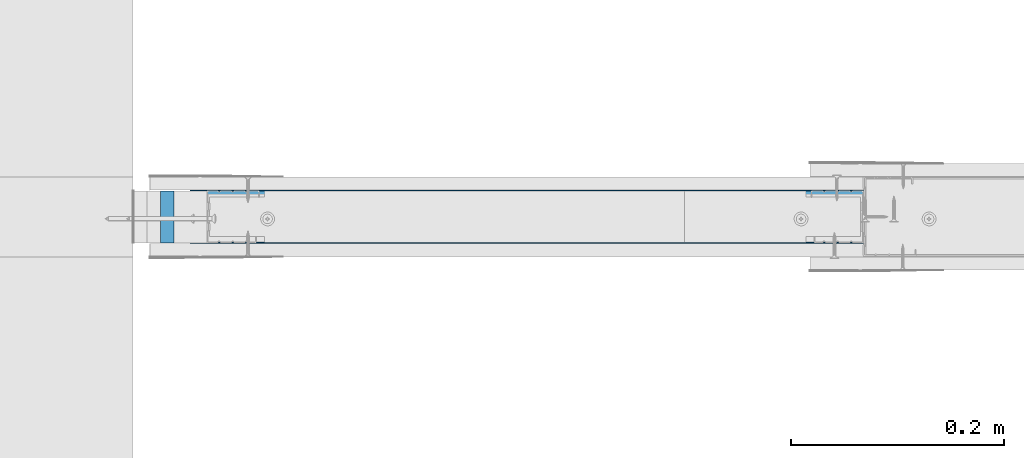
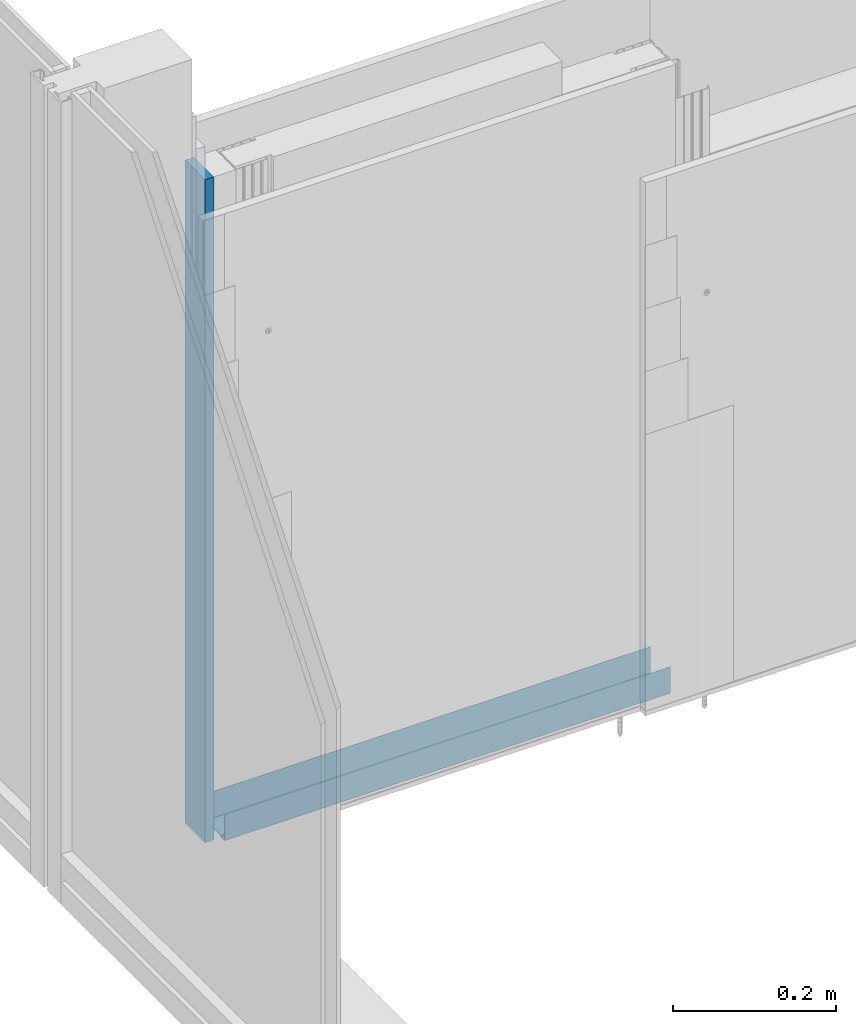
# One storey, part 3 of 42: 2 walls.
"""IFC2X3 building model written with IfcOpenShell, lengths in millimetres."""

from ifc_helpers import new_model, entity, si_unit, converted_unit, direction, frame, origin, origin_with_axes, place, context, project, spatial, faceted_brep, element, save


model = new_model("IFC2X3")

# Units and contexts
model_context = context("Model", 3, precision=1e-05, world=origin(), true_north=direction((0.0, 1.0, 0.0)))
ifc_project = project(units=[si_unit("LENGTHUNIT", "METRE", prefix="MILLI"), si_unit("AREAUNIT", "SQUARE_METRE"), si_unit("VOLUMEUNIT", "CUBIC_METRE"), converted_unit("PLANEANGLEUNIT", "DEGREE", entity("IfcPlaneAngleMeasure", 0.01745), si_unit("PLANEANGLEUNIT", "RADIAN"), dimensions=[0, 0, 0, 0, 0, 0, 0]), si_unit("SOLIDANGLEUNIT", "STERADIAN"), si_unit("MASSUNIT", "GRAM"), si_unit("TIMEUNIT", "SECOND"), si_unit("THERMODYNAMICTEMPERATUREUNIT", "DEGREE_CELSIUS"), si_unit("LUMINOUSINTENSITYUNIT", "LUMEN")], contexts=[model_context])

# Site, building, storey
site_placement = place(None, origin_with_axes())
site = spatial("IfcSite", under=ifc_project, at=site_placement, Name="Default Site", CompositionType="ELEMENT")
building_placement = place(site_placement, origin_with_axes())
building = spatial("IfcBuilding", under=site, at=building_placement, Name="Default Building", CompositionType="ELEMENT")
storey_placement = place(building_placement, origin_with_axes())
storey = spatial("IfcBuildingStorey", under=building, at=storey_placement, Name="Default Building Storey", CompositionType="ELEMENT", Elevation=0.0)

# Walls
wall_1_placement = place(storey_placement, frame((2347.814282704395, 2016.879979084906, -185.4597315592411), z_axis=(-1.0, 5.82867087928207e-16, -8.068721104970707e-16), x_axis=(9.776777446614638e-16, -3.256321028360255e-31, -1.0)))
element("IfcWall", 1, at=wall_1_placement, inside=storey, Name="Płyta gipsowo-kartonowa RIGIPS PRO (4PRO™)", context=model_context, shape_type="Brep", body=[
    faceted_brep([(-195.4581498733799, -24.6461696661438, -1.129080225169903), (-195.45814987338, 24.14398100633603, -1.129080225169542), (-1187.843757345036, 24.14398100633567, -1.129080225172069), (-1187.843757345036, -24.64616966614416, -1.129080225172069), (-195.45814987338, 24.14398100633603, 11.37091977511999), (-1187.843757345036, 24.14398100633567, 11.37091977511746), (-195.45814987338, -24.6461696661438, 11.37091977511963), (-1187.843757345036, -24.64616966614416, 11.37091977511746)], [[[0, 1, 2, 3]], [[1, 4, 5, 2]], [[4, 6, 7, 5]], [[6, 0, 3, 7]], [[7, 3, 2, 5]], [[0, 6, 4, 1]]]),
])
wall_2_placement = place(storey_placement, frame((2887.818896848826, -1438.076434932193, 8.248997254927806), z_axis=(7.548498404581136e-14, 6.858158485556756e-13, 1.0), x_axis=(1.0, -1.253556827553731e-15, -7.692534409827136e-14)))
element("IfcWall", 2, at=wall_2_placement, inside=storey, Name="Profil RIGIPS UW 50 ULTRASTIL®", context=model_context, shape_type="Brep", body=[
    faceted_brep([(-523.6648519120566, 3479.733223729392, 35.00000000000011), (-523.6648519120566, 3480.283223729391, 35.00000000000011), (-523.6648519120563, 3480.283223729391, -4.19999999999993), (-523.6648519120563, 3480.273374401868, -4.32514757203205), (-523.6648519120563, 3480.244068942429, -4.447213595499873), (-523.6648519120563, 3480.196028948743, -4.563192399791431), (-523.6648519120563, 3480.130437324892, -4.670228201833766), (-523.6648519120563, 3480.04890915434, -4.765685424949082), (-523.6648519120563, 3479.953451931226, -4.84721359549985), (-523.6648519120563, 3479.846416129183, -4.912805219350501), (-523.6648519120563, 3479.730437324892, -4.960845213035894), (-523.6648519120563, 3479.608371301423, -4.990150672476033), (-523.6648519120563, 3479.483223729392, -4.999999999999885), (-523.6648519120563, 3470.908620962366, -4.999999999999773), (-523.6648519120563, 3470.686924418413, -4.975115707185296), (-523.6648519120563, 3470.476261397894, -4.901701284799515), (-523.6648519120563, 3470.128902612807, -4.626130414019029), (-523.6648519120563, 3470.009494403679, -4.437688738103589), (-523.6648519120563, 3469.68072520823, -3.762311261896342), (-523.6648519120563, 3469.561316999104, -3.573869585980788), (-523.6648519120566, 3469.403103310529, -3.416589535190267), (-523.6648519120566, 3469.213958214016, -3.298298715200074), (-523.6648519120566, 3469.003295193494, -3.224884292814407), (-523.6648519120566, 3468.781598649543, -3.19999999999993), (-523.6648519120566, 3441.78484880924, -3.199999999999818), (-523.6648519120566, 3441.563152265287, -3.224884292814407), (-523.6648519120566, 3441.352489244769, -3.298298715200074), (-523.6648519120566, 3441.163344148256, -3.416589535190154), (-523.6648519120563, 3441.005130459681, -3.573869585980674), (-523.6648519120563, 3440.885722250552, -3.762311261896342), (-523.6648519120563, 3440.556953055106, -4.437688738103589), (-523.6648519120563, 3440.437544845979, -4.626130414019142), (-523.6648519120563, 3440.279331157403, -4.783410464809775), (-523.6648519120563, 3439.87952304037, -4.97511570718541), (-523.6648519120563, 3439.657826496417, -4.999999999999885), (-523.6648519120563, 3431.083223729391, -4.999999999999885), (-523.6648519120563, 3430.95807615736, -4.990150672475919), (-523.6648519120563, 3430.836010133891, -4.960845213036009), (-523.6648519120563, 3430.7200313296, -4.912805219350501), (-523.6648519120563, 3430.612995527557, -4.847213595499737), (-523.6648519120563, 3430.517538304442, -4.765685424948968), (-523.6648519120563, 3430.436010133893, -4.670228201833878), (-523.6648519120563, 3430.370418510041, -4.563192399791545), (-523.6648519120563, 3430.322378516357, -4.447213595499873), (-523.6648519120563, 3430.293073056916, -4.32514757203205), (-523.6648519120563, 3430.283223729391, -4.19999999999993), (-523.6648519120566, 3430.283223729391, 35.00000000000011), (-523.6648519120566, 3430.833223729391, 35.00000000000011), (-523.6648519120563, 3430.833223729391, -4.19999999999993), (-523.6648519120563, 3430.836301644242, -4.239108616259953), (-523.6648519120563, 3430.845459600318, -4.277254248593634), (-523.6648519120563, 3430.860472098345, -4.313497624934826), (-523.6648519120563, 3430.880969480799, -4.34694631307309), (-523.6648519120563, 3430.906447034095, -4.376776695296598), (-523.6648519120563, 3430.93627741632, -4.402254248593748), (-523.6648519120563, 3430.969726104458, -4.422751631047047), (-523.6648519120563, 3431.005969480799, -4.437764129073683), (-523.6648519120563, 3431.044115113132, -4.446922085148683), (-523.6648519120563, 3431.083223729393, -4.44999999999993), (-523.6648519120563, 3439.313858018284, -4.450000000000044), (-523.6648519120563, 3439.535554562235, -4.425115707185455), (-523.6648519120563, 3439.746217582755, -4.351701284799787), (-523.6648519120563, 3439.935362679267, -4.233410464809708), (-523.6648519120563, 3440.093576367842, -4.076130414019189), (-523.6648519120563, 3440.21298457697, -3.88768873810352), (-523.6648519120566, 3440.541753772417, -3.212311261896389), (-523.6648519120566, 3440.661161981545, -3.023869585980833), (-523.6648519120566, 3440.819375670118, -2.866589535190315), (-523.6648519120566, 3441.219183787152, -2.674884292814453), (-523.6648519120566, 3441.440880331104, -2.649999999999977), (-523.6648519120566, 3469.125567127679, -2.649999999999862), (-523.6648519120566, 3469.347263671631, -2.674884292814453), (-523.6648519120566, 3469.557926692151, -2.748298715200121), (-523.6648519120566, 3469.905285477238, -3.023869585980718), (-523.6648519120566, 3470.024693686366, -3.212311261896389), (-523.6648519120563, 3470.353462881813, -3.88768873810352), (-523.6648519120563, 3470.472871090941, -4.076130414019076), (-523.6648519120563, 3470.631084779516, -4.233410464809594), (-523.6648519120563, 3470.82022987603, -4.351701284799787), (-523.6648519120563, 3471.030892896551, -4.425115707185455), (-523.6648519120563, 3471.252589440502, -4.44999999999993), (-523.6648519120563, 3479.483223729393, -4.449999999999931), (-523.6648519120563, 3479.522332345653, -4.446922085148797), (-523.6648519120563, 3479.560477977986, -4.437764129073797), (-523.6648519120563, 3479.596721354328, -4.422751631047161), (-523.6648519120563, 3479.630170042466, -4.402254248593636), (-523.6648519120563, 3479.660000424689, -4.376776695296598), (-523.6648519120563, 3479.685477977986, -4.34694631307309), (-523.6648519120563, 3479.705975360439, -4.313497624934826), (-523.6648519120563, 3479.720987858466, -4.277254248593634), (-523.6648519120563, 3479.730145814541, -4.239108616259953), (-523.6648519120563, 3479.733223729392, -4.19999999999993), (107.3602554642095, 3480.283223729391, -4.200000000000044), (107.3602554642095, 3480.283223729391, 35.0), (107.3602554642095, 3479.733223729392, 35.0), (107.3602554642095, 3479.733223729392, -4.200000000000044), (107.3602554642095, 3479.730145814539, -4.239108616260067), (107.3602554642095, 3479.720987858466, -4.277254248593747), (107.3602554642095, 3479.705975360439, -4.313497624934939), (107.3602554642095, 3479.685477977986, -4.346946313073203), (107.3602554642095, 3479.660000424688, -4.376776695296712), (107.3602554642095, 3479.630170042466, -4.402254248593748), (107.3602554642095, 3479.596721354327, -4.422751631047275), (107.3602554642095, 3479.560477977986, -4.43776412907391), (107.3602554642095, 3479.522332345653, -4.446922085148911), (107.3602554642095, 3479.483223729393, -4.450000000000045), (107.3602554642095, 3471.252589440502, -4.450000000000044), (107.3602554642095, 3471.03089289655, -4.425115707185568), (107.3602554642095, 3470.820229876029, -4.351701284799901), (107.3602554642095, 3470.631084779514, -4.233410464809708), (107.3602554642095, 3470.472871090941, -4.076130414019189), (107.3602554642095, 3470.353462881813, -3.887688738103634), (107.3602554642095, 3470.024693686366, -3.212311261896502), (107.3602554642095, 3469.905285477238, -3.023869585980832), (107.3602554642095, 3469.557926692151, -2.748298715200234), (107.3602554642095, 3469.34726367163, -2.674884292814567), (107.3602554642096, 3469.125567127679, -2.649999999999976), (107.3602554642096, 3441.440880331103, -2.65000000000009), (107.3602554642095, 3441.219183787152, -2.674884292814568), (107.3602554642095, 3440.819375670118, -2.866589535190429), (107.3602554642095, 3440.661161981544, -3.023869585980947), (107.3602554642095, 3440.541753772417, -3.212311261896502), (107.3602554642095, 3440.212984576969, -3.887688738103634), (107.3602554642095, 3440.093576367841, -4.076130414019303), (107.3602554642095, 3439.935362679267, -4.233410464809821), (107.3602554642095, 3439.746217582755, -4.351701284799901), (107.3602554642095, 3439.535554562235, -4.425115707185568), (107.3602554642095, 3439.313858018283, -4.450000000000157), (107.3602554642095, 3431.083223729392, -4.450000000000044), (107.3602554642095, 3431.044115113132, -4.446922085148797), (107.3602554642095, 3431.005969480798, -4.437764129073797), (107.3602554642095, 3430.969726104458, -4.422751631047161), (107.3602554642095, 3430.936277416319, -4.402254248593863), (107.3602554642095, 3430.906447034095, -4.376776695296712), (107.3602554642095, 3430.880969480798, -4.346946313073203), (107.3602554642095, 3430.860472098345, -4.313497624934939), (107.3602554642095, 3430.845459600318, -4.277254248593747), (107.3602554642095, 3430.836301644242, -4.239108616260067), (107.3602554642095, 3430.833223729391, -4.200000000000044), (107.3602554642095, 3430.833223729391, 35.0), (107.3602554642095, 3430.283223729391, 35.0), (107.3602554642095, 3430.283223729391, -4.200000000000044), (107.3602554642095, 3430.293073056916, -4.325147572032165), (107.3602554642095, 3430.322378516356, -4.447213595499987), (107.3602554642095, 3430.370418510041, -4.563192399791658), (107.3602554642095, 3430.436010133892, -4.670228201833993), (107.3602554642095, 3430.517538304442, -4.765685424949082), (107.3602554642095, 3430.612995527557, -4.84721359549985), (107.3602554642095, 3430.7200313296, -4.912805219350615), (107.3602554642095, 3430.836010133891, -4.960845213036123), (107.3602554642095, 3430.958076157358, -4.990150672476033), (107.3602554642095, 3431.083223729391, -4.999999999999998), (107.3602554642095, 3439.657826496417, -4.999999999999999), (107.3602554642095, 3439.879523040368, -4.975115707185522), (107.3602554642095, 3440.279331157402, -4.783410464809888), (107.3602554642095, 3440.437544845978, -4.626130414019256), (107.3602554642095, 3440.556953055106, -4.437688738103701), (107.3602554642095, 3440.885722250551, -3.762311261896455), (107.3602554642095, 3441.005130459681, -3.573869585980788), (107.3602554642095, 3441.163344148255, -3.416589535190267), (107.3602554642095, 3441.352489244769, -3.298298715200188), (107.3602554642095, 3441.563152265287, -3.224884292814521), (107.3602554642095, 3441.78484880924, -3.199999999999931), (107.3602554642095, 3468.781598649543, -3.200000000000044), (107.3602554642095, 3469.003295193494, -3.224884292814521), (107.3602554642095, 3469.213958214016, -3.298298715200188), (107.3602554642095, 3469.403103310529, -3.416589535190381), (107.3602554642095, 3469.561316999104, -3.573869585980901), (107.3602554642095, 3469.680725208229, -3.762311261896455), (107.3602554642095, 3470.009494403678, -4.437688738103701), (107.3602554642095, 3470.128902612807, -4.626130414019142), (107.3602554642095, 3470.476261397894, -4.901701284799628), (107.3602554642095, 3470.686924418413, -4.97511570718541), (107.3602554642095, 3470.908620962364, -4.999999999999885), (107.3602554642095, 3479.483223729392, -4.999999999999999), (107.3602554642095, 3479.608371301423, -4.990150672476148), (107.3602554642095, 3479.73043732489, -4.960845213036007), (107.3602554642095, 3479.846416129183, -4.912805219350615), (107.3602554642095, 3479.953451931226, -4.847213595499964), (107.3602554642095, 3480.04890915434, -4.765685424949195), (107.3602554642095, 3480.130437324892, -4.670228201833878), (107.3602554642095, 3480.196028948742, -4.563192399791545), (107.3602554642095, 3480.244068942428, -4.447213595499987), (107.3602554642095, 3480.273374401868, -4.325147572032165), (-523.6648519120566, 3441.008520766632, -2.748298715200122), (107.3602554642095, 3441.008520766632, -2.748298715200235), (-523.6648519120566, 3469.747071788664, -2.8665895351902), (107.3602554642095, 3469.747071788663, -2.866589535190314), (-523.6648519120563, 3470.063927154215, -4.535249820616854), (107.3602554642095, 3470.063927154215, -4.535249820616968), (-523.6648519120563, 3470.287116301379, -4.783410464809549), (107.3602554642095, 3470.287116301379, -4.783410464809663), (-523.6648519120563, 3440.09018606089, -4.901701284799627), (107.3602554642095, 3440.09018606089, -4.90170128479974)], [[[0, 1, 2, 3, 4, 5, 6, 7, 8, 9, 10, 11, 12, 13, 14, 15, 16, 17, 18, 19, 20, 21, 22, 23, 24, 25, 26, 27, 28, 29, 30, 31, 32, 33, 34, 35, 36, 37, 38, 39, 40, 41, 42, 43, 44, 45, 46, 47, 48, 49, 50, 51, 52, 53, 54, 55, 56, 57, 58, 59, 60, 61, 62, 63, 64, 65, 66, 67, 68, 69, 70, 71, 72, 73, 74, 75, 76, 77, 78, 79, 80, 81, 82, 83, 84, 85, 86, 87, 88, 89, 90, 91]], [[92, 93, 94, 95, 96, 97, 98, 99, 100, 101, 102, 103, 104, 105, 106, 107, 108, 109, 110, 111, 112, 113, 114, 115, 116, 117, 118, 119, 120, 121, 122, 123, 124, 125, 126, 127, 128, 129, 130, 131, 132, 133, 134, 135, 136, 137, 138, 139, 140, 141, 142, 143, 144, 145, 146, 147, 148, 149, 150, 151, 152, 153, 154, 155, 156, 157, 158, 159, 160, 161, 162, 163, 164, 165, 166, 167, 168, 169, 170, 171, 172, 173, 174, 175, 176, 177, 178, 179, 180, 181, 182, 183]], [[45, 141, 140, 46]], [[46, 140, 139, 47]], [[47, 139, 138, 48]], [[128, 58, 57, 129]], [[56, 130, 129, 57]], [[55, 131, 130, 56]], [[131, 55, 54, 132]], [[53, 133, 132, 54]], [[133, 53, 52, 134]], [[51, 135, 134, 52]], [[50, 136, 135, 51]], [[136, 50, 49, 137]], [[48, 138, 137, 49]], [[58, 128, 127, 59]], [[63, 123, 122, 64]], [[62, 124, 123, 63]], [[61, 125, 124, 62]], [[127, 126, 60, 59]], [[60, 126, 125, 61]], [[64, 122, 121, 65]], [[68, 118, 117, 69]], [[184, 185, 118, 68]], [[67, 119, 185, 184]], [[66, 120, 119, 67]], [[121, 120, 66, 65]], [[69, 117, 116, 70]], [[73, 113, 112, 74]], [[186, 187, 113, 73]], [[72, 114, 187, 186]], [[71, 115, 114, 72]], [[116, 115, 71, 70]], [[74, 112, 111, 75]], [[79, 107, 106, 80]], [[78, 108, 107, 79]], [[77, 109, 108, 78]], [[111, 110, 76, 75]], [[76, 110, 109, 77]], [[80, 106, 105, 81]], [[95, 91, 90, 96]], [[89, 97, 96, 90]], [[88, 98, 97, 89]], [[98, 88, 87, 99]], [[86, 100, 99, 87]], [[100, 86, 85, 101]], [[84, 102, 101, 85]], [[83, 103, 102, 84]], [[103, 83, 82, 104]], [[81, 105, 104, 82]], [[91, 95, 94, 0]], [[0, 94, 93, 1]], [[1, 93, 92, 2]], [[11, 10, 176, 175]], [[175, 174, 12, 11]], [[9, 177, 176, 10]], [[8, 7, 179, 178]], [[178, 177, 9, 8]], [[6, 5, 181, 180]], [[180, 179, 7, 6]], [[4, 182, 181, 5]], [[3, 2, 92, 183]], [[183, 182, 4, 3]], [[12, 174, 173, 13]], [[188, 16, 170, 189]], [[189, 169, 17, 188]], [[190, 191, 170, 16]], [[15, 171, 191, 190]], [[14, 172, 171, 15]], [[173, 172, 14, 13]], [[17, 169, 168, 18]], [[22, 164, 163, 23]], [[21, 165, 164, 22]], [[20, 166, 165, 21]], [[168, 167, 19, 18]], [[19, 167, 166, 20]], [[23, 163, 162, 24]], [[28, 158, 157, 29]], [[27, 159, 158, 28]], [[26, 160, 159, 27]], [[162, 161, 25, 24]], [[25, 161, 160, 26]], [[29, 157, 156, 30]], [[33, 153, 152, 34]], [[192, 193, 153, 33]], [[32, 154, 193, 192]], [[31, 155, 154, 32]], [[156, 155, 31, 30]], [[34, 152, 151, 35]], [[44, 43, 143, 142]], [[142, 141, 45, 44]], [[42, 144, 143, 43]], [[41, 40, 146, 145]], [[145, 144, 42, 41]], [[39, 38, 148, 147]], [[147, 146, 40, 39]], [[37, 149, 148, 38]], [[36, 35, 151, 150]], [[150, 149, 37, 36]]]),
])

save(model, "model.ifc")
